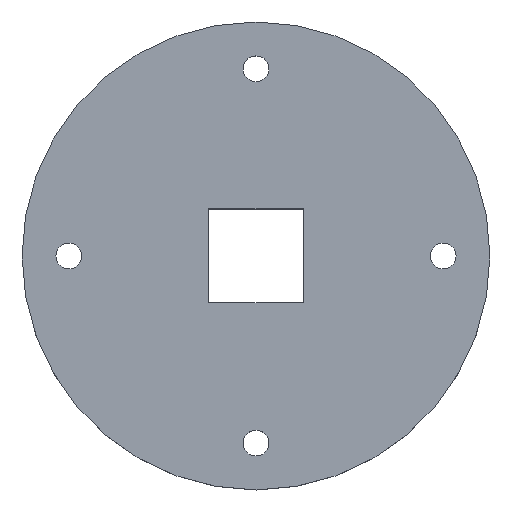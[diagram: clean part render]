
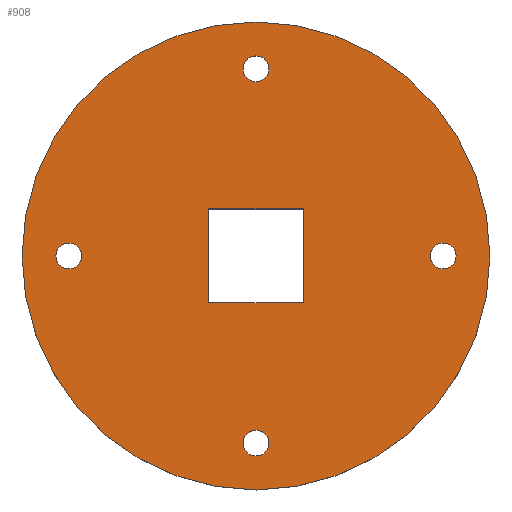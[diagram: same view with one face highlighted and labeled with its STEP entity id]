
A CAD part, top view. The second image highlights one B-rep face of the part: STEP entity #908.
In plain terms, the highlighted planar face has unit normal (0, 0, 1).
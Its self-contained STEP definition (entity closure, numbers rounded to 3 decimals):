
#61=LINE('',#1558,#114);
#64=LINE('',#1563,#117);
#66=LINE('',#1567,#119);
#68=LINE('',#1570,#121);
#114=VECTOR('',#1290,10.);
#117=VECTOR('',#1295,10.);
#119=VECTOR('',#1299,10.);
#121=VECTOR('',#1303,10.);
#181=FACE_BOUND('',#322,.T.);
#182=FACE_BOUND('',#323,.T.);
#183=FACE_BOUND('',#324,.T.);
#184=FACE_BOUND('',#325,.T.);
#185=FACE_BOUND('',#326,.T.);
#242=FACE_OUTER_BOUND('',#321,.T.);
#321=EDGE_LOOP('',(#824));
#322=EDGE_LOOP('',(#825,#826,#827,#828));
#323=EDGE_LOOP('',(#829));
#324=EDGE_LOOP('',(#830));
#325=EDGE_LOOP('',(#831));
#326=EDGE_LOOP('',(#832));
#350=CIRCLE('',#967,50.);
#385=CIRCLE('',#1037,2.75);
#388=CIRCLE('',#1043,2.75);
#391=CIRCLE('',#1049,2.75);
#394=CIRCLE('',#1055,2.75);
#421=VERTEX_POINT('',#1434);
#454=VERTEX_POINT('',#1556);
#455=VERTEX_POINT('',#1557);
#456=VERTEX_POINT('',#1562);
#457=VERTEX_POINT('',#1566);
#460=VERTEX_POINT('',#1579);
#463=VERTEX_POINT('',#1590);
#466=VERTEX_POINT('',#1601);
#469=VERTEX_POINT('',#1612);
#503=EDGE_CURVE('',#421,#421,#350,.T.);
#563=EDGE_CURVE('',#454,#455,#61,.T.);
#566=EDGE_CURVE('',#455,#456,#64,.T.);
#568=EDGE_CURVE('',#456,#457,#66,.T.);
#570=EDGE_CURVE('',#457,#454,#68,.T.);
#575=EDGE_CURVE('',#460,#460,#385,.T.);
#580=EDGE_CURVE('',#463,#463,#388,.T.);
#585=EDGE_CURVE('',#466,#466,#391,.T.);
#590=EDGE_CURVE('',#469,#469,#394,.T.);
#824=ORIENTED_EDGE('',*,*,#503,.T.);
#825=ORIENTED_EDGE('',*,*,#568,.T.);
#826=ORIENTED_EDGE('',*,*,#570,.T.);
#827=ORIENTED_EDGE('',*,*,#563,.T.);
#828=ORIENTED_EDGE('',*,*,#566,.T.);
#829=ORIENTED_EDGE('',*,*,#575,.T.);
#830=ORIENTED_EDGE('',*,*,#580,.T.);
#831=ORIENTED_EDGE('',*,*,#585,.T.);
#832=ORIENTED_EDGE('',*,*,#590,.T.);
#851=PLANE('',#1056);
#908=ADVANCED_FACE('',(#242,#181,#182,#183,#184,#185),#851,.T.);
#967=AXIS2_PLACEMENT_3D('',#1435,#1139,#1140);
#1037=AXIS2_PLACEMENT_3D('',#1581,#1316,#1317);
#1043=AXIS2_PLACEMENT_3D('',#1592,#1330,#1331);
#1049=AXIS2_PLACEMENT_3D('',#1603,#1344,#1345);
#1055=AXIS2_PLACEMENT_3D('',#1614,#1358,#1359);
#1056=AXIS2_PLACEMENT_3D('',#1615,#1360,#1361);
#1139=DIRECTION('center_axis',(0.,0.,1.));
#1140=DIRECTION('ref_axis',(1.,0.,0.));
#1290=DIRECTION('',(1.,0.,0.));
#1295=DIRECTION('',(0.,-1.,0.));
#1299=DIRECTION('',(-1.,0.,0.));
#1303=DIRECTION('',(0.,1.,0.));
#1316=DIRECTION('center_axis',(0.,0.,-1.));
#1317=DIRECTION('ref_axis',(0.,1.,0.));
#1330=DIRECTION('center_axis',(0.,0.,-1.));
#1331=DIRECTION('ref_axis',(1.,0.,0.));
#1344=DIRECTION('center_axis',(0.,0.,-1.));
#1345=DIRECTION('ref_axis',(0.,-1.,0.));
#1358=DIRECTION('center_axis',(0.,0.,-1.));
#1359=DIRECTION('ref_axis',(-1.,0.,0.));
#1360=DIRECTION('center_axis',(0.,0.,1.));
#1361=DIRECTION('ref_axis',(1.,0.,0.));
#1434=CARTESIAN_POINT('',(-50.,0.,15.));
#1435=CARTESIAN_POINT('Origin',(0.,0.,15.));
#1556=CARTESIAN_POINT('',(-10.05,10.05,15.));
#1557=CARTESIAN_POINT('',(10.05,10.05,15.));
#1558=CARTESIAN_POINT('',(5.025,10.05,15.));
#1562=CARTESIAN_POINT('',(10.05,-10.05,15.));
#1563=CARTESIAN_POINT('',(10.05,-5.025,15.));
#1566=CARTESIAN_POINT('',(-10.05,-10.05,15.));
#1567=CARTESIAN_POINT('',(-5.025,-10.05,15.));
#1570=CARTESIAN_POINT('',(-10.05,5.025,15.));
#1579=CARTESIAN_POINT('',(40.,-2.75,15.));
#1581=CARTESIAN_POINT('Origin',(40.,0.,15.));
#1590=CARTESIAN_POINT('',(-2.75,-40.,15.));
#1592=CARTESIAN_POINT('Origin',(0.,-40.,15.));
#1601=CARTESIAN_POINT('',(-40.,2.75,15.));
#1603=CARTESIAN_POINT('Origin',(-40.,0.,15.));
#1612=CARTESIAN_POINT('',(2.75,40.,15.));
#1614=CARTESIAN_POINT('Origin',(0.,40.,15.));
#1615=CARTESIAN_POINT('Origin',(0.,0.,15.));
